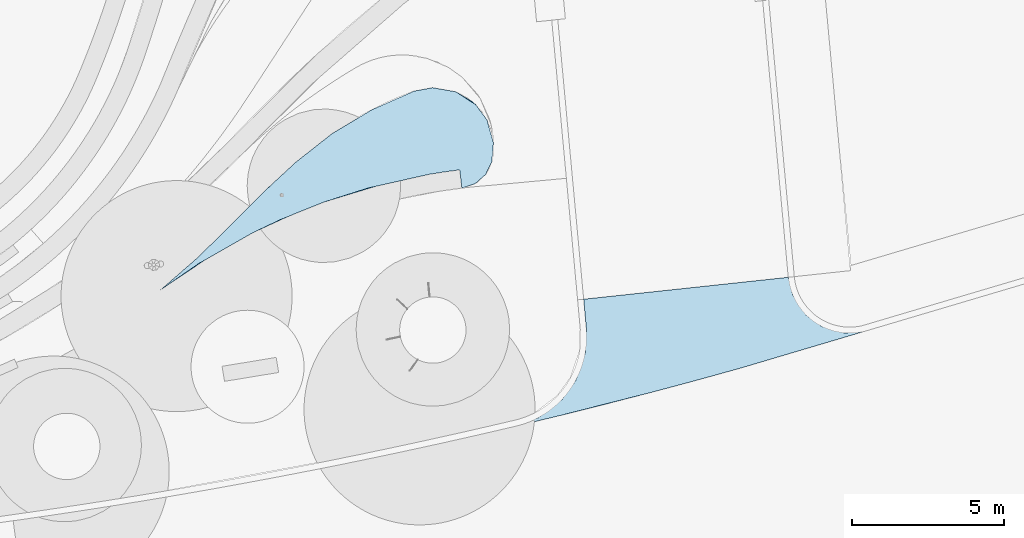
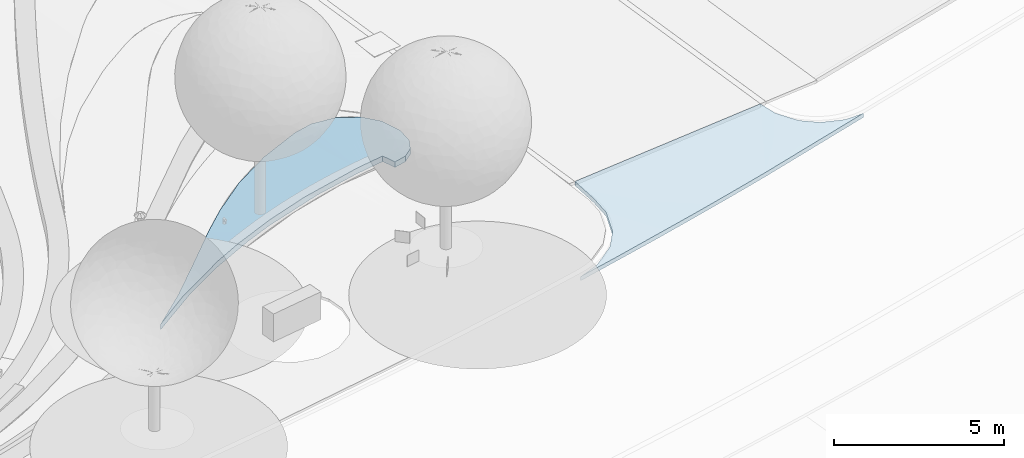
# One storey, part 44 of 75: 2 slabs.
"""IFC2X3 building model written with IfcOpenShell, lengths in metres."""

from ifc_helpers import new_model, entity, si_unit, converted_unit, derived_unit, direction, origin, place, context, subcontext, project, spatial, face_set, surface_model, material, layer, layer_set, type_object, element, save


model = new_model("IFC2X3")

# Units and contexts
model_context = context("Model", 3, precision=1e-05, world=origin(), true_north=direction((6.123031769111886e-17, 1.0)))
body_context = subcontext(model_context, "Body", "Model", "MODEL_VIEW")
ifc_project = project(units=[si_unit("LENGTHUNIT", "METRE"), si_unit("AREAUNIT", "SQUARE_METRE"), si_unit("VOLUMEUNIT", "CUBIC_METRE"), converted_unit("PLANEANGLEUNIT", "DEGREE", entity("IfcRatioMeasure", 0.017453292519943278), si_unit("PLANEANGLEUNIT", "RADIAN"), dimensions=[0, 0, 0, 0, 0, 0, 0]), si_unit("MASSUNIT", "GRAM", prefix="KILO"), derived_unit("MASSDENSITYUNIT", [(si_unit("MASSUNIT", "GRAM", prefix="KILO"), 1), (si_unit("LENGTHUNIT", "METRE"), -3)]), derived_unit("IONCONCENTRATIONUNIT", [(si_unit("MASSUNIT", "GRAM", prefix="KILO"), 1), (si_unit("LENGTHUNIT", "METRE"), -3)]), derived_unit("MOMENTOFINERTIAUNIT", [(si_unit("LENGTHUNIT", "METRE"), 4)]), si_unit("TIMEUNIT", "SECOND"), si_unit("FREQUENCYUNIT", "HERTZ"), si_unit("THERMODYNAMICTEMPERATUREUNIT", "DEGREE_CELSIUS"), derived_unit("THERMALTRANSMITTANCEUNIT", [(si_unit("MASSUNIT", "GRAM", prefix="KILO"), 1), (si_unit("THERMODYNAMICTEMPERATUREUNIT", "KELVIN"), -1), (si_unit("TIMEUNIT", "SECOND"), -3)]), derived_unit("THERMALCONDUCTANCEUNIT", [(si_unit("MASSUNIT", "GRAM", prefix="KILO"), 1), (si_unit("THERMODYNAMICTEMPERATUREUNIT", "KELVIN"), -1), (si_unit("TIMEUNIT", "SECOND"), -3), (si_unit("LENGTHUNIT", "METRE"), 1)]), derived_unit("VOLUMETRICFLOWRATEUNIT", [(si_unit("LENGTHUNIT", "METRE"), 3), (si_unit("TIMEUNIT", "SECOND"), -1)]), derived_unit("MASSFLOWRATEUNIT", [(si_unit("MASSUNIT", "GRAM", prefix="KILO"), 1), (si_unit("TIMEUNIT", "SECOND"), -1)]), derived_unit("ROTATIONALFREQUENCYUNIT", [(si_unit("TIMEUNIT", "SECOND"), -1)]), si_unit("ELECTRICCURRENTUNIT", "AMPERE"), si_unit("ELECTRICVOLTAGEUNIT", "VOLT"), si_unit("POWERUNIT", "WATT"), si_unit("FORCEUNIT", "NEWTON", prefix="KILO"), si_unit("ILLUMINANCEUNIT", "LUX"), si_unit("LUMINOUSFLUXUNIT", "LUMEN"), si_unit("LUMINOUSINTENSITYUNIT", "CANDELA"), derived_unit("USERDEFINED", [(si_unit("MASSUNIT", "GRAM", prefix="KILO"), -1), (si_unit("LENGTHUNIT", "METRE"), -2), (si_unit("TIMEUNIT", "SECOND"), 3), (si_unit("LUMINOUSFLUXUNIT", "LUMEN"), 1)]), derived_unit("USERDEFINED", [(si_unit("MASSUNIT", "GRAM", prefix="KILO"), 1), (si_unit("TIMEUNIT", "SECOND"), -3), (si_unit("LENGTHUNIT", "METRE"), 3), (si_unit("ELECTRICCURRENTUNIT", "AMPERE"), -2)]), derived_unit("SOUNDPOWERUNIT", [(si_unit("MASSUNIT", "GRAM", prefix="KILO"), 1), (si_unit("TIMEUNIT", "SECOND"), -3), (si_unit("LENGTHUNIT", "METRE"), 2)]), derived_unit("SOUNDPRESSUREUNIT", [(si_unit("MASSUNIT", "GRAM", prefix="KILO"), 1), (si_unit("LENGTHUNIT", "METRE"), -1), (si_unit("TIMEUNIT", "SECOND"), -2)]), derived_unit("LINEARVELOCITYUNIT", [(si_unit("LENGTHUNIT", "METRE"), 1), (si_unit("TIMEUNIT", "SECOND"), -1)]), si_unit("PRESSUREUNIT", "PASCAL"), derived_unit("USERDEFINED", [(si_unit("MASSUNIT", "GRAM", prefix="KILO"), 1), (si_unit("LENGTHUNIT", "METRE"), -2), (si_unit("TIMEUNIT", "SECOND"), -2)]), derived_unit("LINEARFORCEUNIT", [(si_unit("MASSUNIT", "GRAM", prefix="KILO"), 1), (si_unit("TIMEUNIT", "SECOND"), -2)]), derived_unit("PLANARFORCEUNIT", [(si_unit("MASSUNIT", "GRAM", prefix="KILO"), 1), (si_unit("LENGTHUNIT", "METRE"), -1), (si_unit("TIMEUNIT", "SECOND"), -2)]), derived_unit("SPECIFICHEATCAPACITYUNIT", [(si_unit("THERMODYNAMICTEMPERATUREUNIT", "KELVIN"), -1), (si_unit("LENGTHUNIT", "METRE"), 2), (si_unit("TIMEUNIT", "SECOND"), -2)]), derived_unit("HEATINGVALUEUNIT", [(si_unit("LENGTHUNIT", "METRE"), 2), (si_unit("TIMEUNIT", "SECOND"), -2)]), derived_unit("VAPORPERMEABILITYUNIT", [(si_unit("LENGTHUNIT", "METRE"), -1), (si_unit("TIMEUNIT", "SECOND"), 1)]), derived_unit("DYNAMICVISCOSITYUNIT", [(si_unit("MASSUNIT", "GRAM", prefix="KILO"), 1), (si_unit("TIMEUNIT", "SECOND"), -1), (si_unit("LENGTHUNIT", "METRE"), -1)]), derived_unit("THERMALEXPANSIONCOEFFICIENTUNIT", [(si_unit("THERMODYNAMICTEMPERATUREUNIT", "KELVIN"), -1)]), derived_unit("MODULUSOFELASTICITYUNIT", [(si_unit("MASSUNIT", "GRAM", prefix="KILO"), 1), (si_unit("LENGTHUNIT", "METRE"), -1), (si_unit("TIMEUNIT", "SECOND"), -2)]), derived_unit("ISOTHERMALMOISTURECAPACITYUNIT", [(si_unit("LENGTHUNIT", "METRE"), 3), (si_unit("MASSUNIT", "GRAM", prefix="KILO"), -1)]), derived_unit("MOISTUREDIFFUSIVITYUNIT", [(si_unit("TIMEUNIT", "SECOND"), -1), (si_unit("LENGTHUNIT", "METRE"), 2)])], contexts=[model_context])

# Site, building, storey
site_placement = place(None, origin())
site = spatial("IfcSite", under=ifc_project, at=site_placement, Name="Default", CompositionType="ELEMENT")
building_placement = place(site_placement, origin())
building = spatial("IfcBuilding", under=site, at=building_placement, Name="Projeto", CompositionType="ELEMENT")
storey_placement = place(building_placement, origin())
storey = spatial("IfcBuildingStorey", under=building, at=storey_placement, Name="Nível 1", CompositionType="ELEMENT", Elevation=0.0)

# Slabs
ifc_material_1 = material(Name="Piso CAJOI PASSEIO")
ifc_layer_1 = layer(ifc_material_1, 0.14999999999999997)
ifc_layer_set_1 = layer_set([ifc_layer_1], Name="Piso:Basalto Flameado 20x10cm")
slab_type_1 = type_object("IfcSlabType", Name="Piso:Basalto Flameado 20x10cm", PredefinedType="FLOOR", material=ifc_layer_set_1)
slab_1_placement = place(storey_placement, origin())
element("IfcSlab", 1, at=slab_1_placement, inside=storey, type_object=slab_type_1, material=ifc_material_1, Name="Piso:Basalto Flameado 20x10cm", ObjectType="Piso:Basalto Flameado 20x10cm", PredefinedType="FLOOR", context=body_context, shape_type="SurfaceModel", body=[
    surface_model("IfcFaceBasedSurfaceModel", [(31.998860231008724, -10.737020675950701, -0.14999999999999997), (31.998860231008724, -10.737020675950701, 0.0), (38.71441638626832, -10.017258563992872, 0.0), (38.71441638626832, -10.017258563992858, -0.14999999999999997), (32.08751155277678, -11.708002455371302, -0.20999999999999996), (32.08751155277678, -11.708002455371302, -0.06), (41.18165052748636, -11.802757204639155, -0.26999999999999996), (37.1628139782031, -12.994707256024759, -0.26999999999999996), (37.16281397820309, -12.99470725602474, -0.12), (41.18165052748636, -11.802757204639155, -0.12000000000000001), (36.42917872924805, -13.199088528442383, -0.2699999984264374), (36.42917872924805, -13.199088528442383, -0.1199999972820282), (35.694700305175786, -13.400408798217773, -0.1199999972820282), (35.694700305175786, -13.400408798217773, -0.2699999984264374), (34.959384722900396, -13.59866297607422, -0.1199999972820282), (34.959384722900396, -13.59866297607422, -0.2699999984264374), (32.74857315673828, -14.1750033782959, -0.2699999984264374), (34.2232505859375, -13.793849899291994, -0.1199999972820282), (31.27076568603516, -14.543842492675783, -0.1199999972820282), (29.78993514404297, -14.900342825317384, -0.2699999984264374), (29.78993514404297, -14.900342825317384, -0.1199999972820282), (34.2232505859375, -13.793849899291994, -0.2699999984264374), (31.287178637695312, -14.034055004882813, -0.24545454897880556), (30.90217888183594, -14.329477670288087, -0.2522727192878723), (30.90217888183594, -14.329477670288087, -0.10227272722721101), (31.287178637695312, -14.034055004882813, -0.09545454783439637), (31.741478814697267, -13.402833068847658, -0.0845454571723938), (31.899362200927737, -12.943951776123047, -0.0777272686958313), (31.899362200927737, -12.943951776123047, -0.2277272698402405), (31.741478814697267, -13.402833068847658, -0.23454545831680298), (30.51717680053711, -14.624901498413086, -0.10909090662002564), (30.153557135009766, -14.762622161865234, -0.11454545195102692), (30.153557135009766, -14.762622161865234, -0.26454546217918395), (30.51717680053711, -14.624901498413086, -0.25909090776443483), (31.514327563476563, -13.718444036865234, -0.09000000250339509), (31.514327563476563, -13.718444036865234, -0.2399999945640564), (32.05724791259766, -12.485070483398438, -0.2209090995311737), (32.05724791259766, -12.485070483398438, -0.07090908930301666), (32.07237954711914, -12.096536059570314, -0.21545454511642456), (32.06897742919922, -12.183898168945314, -0.06668100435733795), (38.79112990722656, -10.319725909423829, -0.16090909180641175), (38.810356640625, -10.395535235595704, -0.013643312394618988), (38.8678438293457, -10.622193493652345, -0.17181818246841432), (40.870361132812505, -11.82443173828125, -0.10909090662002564), (39.81065372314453, -11.63214580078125, -0.2209090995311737), (39.99775858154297, -11.685635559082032, -0.0777272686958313), (40.18486343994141, -11.73912648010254, -0.23454545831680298), (39.30502412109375, -11.26622860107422, -0.04909090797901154), (39.30502412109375, -11.26622860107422, -0.19909090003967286), (39.19572846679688, -11.10521982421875, -0.19227272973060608), (39.0864328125, -10.944211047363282, -0.03545454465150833), (38.8678438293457, -10.622193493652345, -0.021818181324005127), (39.0864328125, -10.944211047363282, -0.1854545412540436), (39.81065372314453, -11.63214580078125, -0.07090908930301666), (39.55783659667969, -11.449187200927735, -0.21000000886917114), (39.55783659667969, -11.449187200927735, -0.0599999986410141), (40.18486343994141, -11.73912648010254, -0.0845454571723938), (40.792337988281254, -11.829863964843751, -0.25635668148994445), (40.55906850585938, -11.846107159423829, -0.09818181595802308), (40.55906850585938, -11.846107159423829, -0.24818181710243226), (33.37958347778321, -12.530552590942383, -0.08027959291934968), (33.58586390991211, -12.327076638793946, -0.07132964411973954), (32.043185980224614, -11.222511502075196, -0.02999999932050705), (33.1378819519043, -12.733835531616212, -0.08950837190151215), (33.84678054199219, -12.068714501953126, -0.0599999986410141), (33.58586390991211, -12.327076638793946, -0.2213296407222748), (33.37958347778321, -12.530552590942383, -0.230279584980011), (32.043185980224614, -11.222511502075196, -0.18000000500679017), (33.1378819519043, -12.733835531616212, -0.2395083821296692), (33.84678054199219, -12.068714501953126, -0.21000000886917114), (31.639826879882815, -14.450093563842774, -0.1199999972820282), (33.116069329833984, -14.075096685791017, -0.1199999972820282), (33.48513052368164, -13.981347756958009, -0.1199999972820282), (33.8541917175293, -13.887598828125, -0.1199999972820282), (32.07237257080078, -12.096534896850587, -0.06545454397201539), (30.16014277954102, -14.811218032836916, -0.1199999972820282), (30.530350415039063, -14.722093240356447, -0.1199999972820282), (30.90055805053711, -14.632967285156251, -0.1199999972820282), (32.00888807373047, -14.356344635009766, -0.1199999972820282), (32.377949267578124, -14.262595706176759, -0.1199999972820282), (32.74700813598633, -14.16884677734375, -0.1199999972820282), (38.20457268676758, -12.421656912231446, -0.0986502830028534), (38.63665328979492, -12.35988510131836, -0.1000936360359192), (38.110227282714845, -11.832490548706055, -0.07165440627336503), (38.72812677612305, -12.461441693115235, -0.10957000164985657), (38.06123492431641, -11.569020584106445, -0.06150525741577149), (38.73172655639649, -12.529381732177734, -0.1199999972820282), (38.598178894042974, -12.549988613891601, -0.1155943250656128), (38.20886544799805, -12.211147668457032, -0.0881722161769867), (38.350880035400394, -11.853041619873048, -0.07255169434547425), (37.76854348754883, -11.832341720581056, -0.07315324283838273), (38.791139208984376, -10.319721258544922, -0.010909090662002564), (33.48591187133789, -13.984426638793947, -0.2699999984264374), (33.11724135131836, -14.079715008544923, -0.2699999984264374), (31.639082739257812, -14.447005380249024, -0.2699999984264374), (32.008913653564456, -14.356337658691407, -0.2699999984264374), (33.90559323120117, -13.875953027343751, -0.2699999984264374), (30.108592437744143, -14.822220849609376, -0.2699999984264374), (30.529594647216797, -14.719007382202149, -0.2699999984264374), (30.899423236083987, -14.628340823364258, -0.2699999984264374), (31.269254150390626, -14.537673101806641, -0.2699999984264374), (32.37874224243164, -14.265671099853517, -0.2699999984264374), (38.63665328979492, -12.35988510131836, -0.2500936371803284), (38.20457268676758, -12.421656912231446, -0.2486502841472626), (38.110227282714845, -11.832490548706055, -0.22165440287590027), (38.72812677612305, -12.461441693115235, -0.2595700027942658), (38.06123492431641, -11.569020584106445, -0.21150525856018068), (38.73172655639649, -12.529381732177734, -0.2699999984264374), (38.598178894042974, -12.549988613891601, -0.265594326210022), (40.870361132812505, -11.824421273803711, -0.25909090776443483), (38.20886544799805, -12.211147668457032, -0.23817221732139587), (38.350880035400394, -11.853041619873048, -0.22255169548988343), (37.76854348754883, -11.832341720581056, -0.22315323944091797), (35.35663721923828, -10.377139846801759, 0.0), (35.35663721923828, -10.377139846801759, -0.1500000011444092)], [face_set([[[0, 1, 2, 3]], [[4, 5, 1, 0]], [[6, 7, 8, 9]], [[10, 11, 12, 13]], [[13, 12, 14, 15]], [[7, 8, 11, 10]], [[16, 17, 18]], [[19, 18, 20]], [[17, 21, 15, 14]], [[21, 17, 16]], [[18, 19, 16]], [[22, 23, 24, 25]], [[26, 27, 28, 29]], [[30, 31, 32, 33]], [[31, 20, 19, 32]], [[30, 24, 23, 33]], [[34, 26, 29, 35]], [[36, 28, 27, 37]], [[38, 36, 39]], [[4, 38, 5]], [[37, 39, 36]], [[38, 39, 5]], [[35, 22, 25, 34]], [[40, 41, 42]], [[43, 9, 6]], [[44, 45, 46]], [[47, 48, 49, 50]], [[42, 51, 50, 52]], [[41, 40, 2]], [[53, 44, 54, 55]], [[3, 2, 40]], [[49, 52, 50]], [[56, 46, 45]], [[43, 57, 58]], [[53, 45, 44]], [[46, 56, 58, 59]], [[57, 43, 6]], [[48, 47, 55, 54]], [[59, 58, 57]], [[41, 51, 42]], [[60, 14, 61]], [[14, 12, 61]], [[1, 62, 61]], [[5, 60, 62]], [[63, 60, 5]], [[17, 14, 60]], [[17, 60, 63]], [[62, 60, 61]], [[61, 12, 64, 1]], [[65, 15, 66]], [[65, 13, 15]], [[65, 67, 0]], [[67, 66, 4]], [[4, 66, 68]], [[66, 15, 21]], [[68, 66, 21]], [[65, 66, 67]], [[69, 13, 65]], [[69, 65, 0]], [[25, 18, 70]], [[71, 72, 37]], [[5, 73, 17]], [[74, 72, 73]], [[18, 25, 24]], [[75, 76, 31, 20]], [[73, 5, 74]], [[30, 77, 24]], [[30, 76, 77]], [[34, 70, 78, 79]], [[27, 80, 26]], [[72, 37, 74]], [[37, 27, 71]], [[76, 30, 31]], [[27, 80, 71]], [[34, 79, 26]], [[34, 70, 25]], [[79, 80, 26]], [[18, 24, 77]], [[81, 8, 82]], [[83, 50, 51]], [[55, 81, 53]], [[84, 56, 82]], [[85, 83, 51]], [[8, 86, 87]], [[43, 58, 84]], [[88, 8, 81]], [[43, 84, 87]], [[82, 53, 81]], [[8, 84, 82]], [[87, 84, 8]], [[9, 43, 86]], [[81, 55, 88]], [[47, 50, 89]], [[8, 88, 89]], [[2, 90, 85]], [[50, 83, 89]], [[85, 91, 2]], [[8, 83, 85]], [[8, 85, 90]], [[89, 83, 8]], [[47, 89, 88]], [[56, 84, 58]], [[56, 53, 82]], [[55, 47, 88]], [[43, 87, 86]], [[85, 51, 91]], [[36, 38, 92]], [[36, 93, 28]], [[94, 35, 95]], [[38, 4, 96]], [[16, 28, 93]], [[97, 19, 32]], [[98, 32, 33]], [[16, 29, 28]], [[23, 99, 33]], [[99, 98, 33]], [[22, 100, 23]], [[38, 96, 92]], [[97, 32, 98]], [[29, 101, 35]], [[21, 96, 4]], [[36, 92, 93]], [[95, 35, 101]], [[94, 22, 35]], [[29, 16, 101]], [[94, 100, 22]], [[99, 23, 100]], [[102, 7, 103]], [[42, 52, 104]], [[44, 103, 54]], [[102, 46, 105]], [[42, 104, 106]], [[7, 107, 108]], [[109, 59, 105]], [[103, 7, 110]], [[108, 105, 109]], [[103, 44, 102]], [[102, 105, 7]], [[7, 105, 108]], [[6, 109, 107]], [[110, 54, 103]], [[111, 52, 48]], [[111, 110, 7]], [[106, 112, 3]], [[111, 104, 52]], [[3, 40, 106]], [[106, 104, 7]], [[112, 106, 7]], [[7, 104, 111]], [[110, 111, 48]], [[59, 105, 46]], [[102, 44, 46]], [[110, 48, 54]], [[109, 108, 107]], [[40, 42, 106]], [[1, 12, 11]], [[8, 2, 113]], [[8, 113, 11]], [[11, 113, 1]], [[10, 13, 0]], [[114, 3, 7]], [[10, 114, 7]], [[0, 114, 10]]])]),
])
ifc_material_2 = material(Name="floração tipo 1")
ifc_layer_2 = layer(ifc_material_2, 0.04)
ifc_layer_3 = layer(ifc_material_2, 0.16)
ifc_layer_set_2 = layer_set([ifc_layer_2, ifc_layer_3], Name="Piso:Floração tipo 1")
slab_type_2 = type_object("IfcSlabType", Name="Piso:Floração tipo 1", PredefinedType="FLOOR", material=ifc_layer_set_2)
slab_2_placement = place(storey_placement, origin())
element("IfcSlab", 2, at=slab_2_placement, inside=storey, type_object=slab_type_2, material=ifc_material_2, Name="Piso:Floração tipo 1", ObjectType="Piso:Floração tipo 1", PredefinedType="FLOOR", context=body_context, shape_type="SurfaceModel", body=[
    surface_model("IfcFaceBasedSurfaceModel", [(26.9207009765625, -6.638477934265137, -0.25999999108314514), (26.9207009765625, -6.638477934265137, -0.4600000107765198), (27.423707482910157, -6.557531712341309, -0.45000000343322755), (27.423707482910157, -6.557531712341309, -0.25000000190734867), (25.425955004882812, -6.955428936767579, -0.4899999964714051), (25.92706395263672, -6.8620270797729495, -0.2800000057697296), (24.93342692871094, -7.085576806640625, -0.3000000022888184), (24.451549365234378, -7.251927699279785, -0.5100000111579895), (23.47714372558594, -7.548425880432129, -0.3299999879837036), (23.47714372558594, -7.548425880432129, -0.5299999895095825), (27.928613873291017, -6.489025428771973, -0.2399999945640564), (27.928613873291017, -6.489025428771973, -0.43999999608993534), (22.059076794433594, -8.117820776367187, -0.36000001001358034), (21.138821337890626, -8.555075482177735, -0.5799999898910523), (22.527029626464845, -7.916366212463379, -0.550000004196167), (20.253784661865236, -9.05906157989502, -0.4000000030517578), (19.36874682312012, -9.563047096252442, -0.4200000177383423), (19.801788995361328, -9.294740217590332, -0.6099999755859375), (18.111056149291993, -10.431056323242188, -0.6500000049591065), (18.111056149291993, -10.431056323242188, -0.45000000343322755), (18.9564219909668, -9.862897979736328, -0.629999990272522), (21.138821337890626, -8.555075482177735, -0.37999998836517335), (20.469704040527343, -8.250400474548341, -0.45000000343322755), (21.280938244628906, -7.4292203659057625, -0.6500000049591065), (20.469704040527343, -8.250400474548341, -0.6500000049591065), (21.69577803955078, -7.027925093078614, -0.45000000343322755), (22.54342164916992, -6.244382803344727, -0.45000000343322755), (22.54342164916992, -6.244382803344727, -0.6500000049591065), (23.73617210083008, -5.30360534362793, -0.45000000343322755), (23.73617210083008, -5.30360534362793, -0.6500000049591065), (25.037936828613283, -4.520582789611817, -0.45000000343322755), (25.037936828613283, -4.520582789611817, -0.6500000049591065), (26.427972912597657, -3.9077919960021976, -0.45000000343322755), (26.427972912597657, -3.9077919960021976, -0.6500000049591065), (19.323320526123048, -9.376357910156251, -0.45000000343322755), (19.323320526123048, -9.376357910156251, -0.6500000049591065), (21.082741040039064, -7.639162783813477, -0.45000000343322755), (21.72843651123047, -8.274936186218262, -0.3671859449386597), (22.768114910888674, -7.8331340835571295, -0.3450000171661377), (22.119598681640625, -6.636154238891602, -0.45000000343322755), (21.83292780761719, -8.235728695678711, -0.5649999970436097), (20.989465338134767, -7.724267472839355, -0.6500000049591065), (22.868404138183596, -7.7841719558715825, -0.5428140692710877), (21.91218110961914, -6.836801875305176, -0.6500000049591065), (19.82313187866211, -8.885452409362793, -0.45000000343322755), (20.696308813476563, -8.807080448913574, -0.3899999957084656), (20.146416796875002, -8.567926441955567, -0.45000000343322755), (19.811272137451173, -9.311064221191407, -0.4100000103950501), (18.739904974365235, -9.99705606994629, -0.4350000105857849), (18.717188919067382, -9.90370711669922, -0.45000000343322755), (20.470308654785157, -8.924916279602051, -0.5949999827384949), (19.89651112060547, -8.813378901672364, -0.6500000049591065), (18.717188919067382, -9.90370711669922, -0.6500000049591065), (18.53373965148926, -10.146978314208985, -0.6400000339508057), (19.37910665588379, -9.578822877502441, -0.6200000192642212), (19.609916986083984, -9.094868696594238, -0.6500000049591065), (27.04087038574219, -3.793260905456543, -0.4138518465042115), (27.806379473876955, -3.929263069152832, -0.36866666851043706), (27.806379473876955, -3.929263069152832, -0.568666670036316), (27.04087038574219, -3.793260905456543, -0.6138518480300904), (28.342318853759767, -4.247899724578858, -0.5325185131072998), (28.458239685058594, -4.353049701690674, -0.32348149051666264), (28.82747063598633, -4.855471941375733, -0.2873333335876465), (29.037253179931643, -5.604132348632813, -0.2421481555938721), (29.037253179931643, -5.604132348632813, -0.442148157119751), (28.82747063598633, -4.855471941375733, -0.4873333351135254), (28.982851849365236, -6.225259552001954, -0.20599999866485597), (28.982851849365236, -6.225259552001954, -0.4060000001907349), (28.78351285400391, -6.640034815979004, -0.17447032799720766), (28.78351285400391, -6.640034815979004, -0.3744703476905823), (28.438206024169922, -6.944141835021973, -0.34294065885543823), (28.438206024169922, -6.944141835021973, -0.1429406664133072), (28.001565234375, -7.08946668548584, -0.11141100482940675), (28.001565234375, -7.08946668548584, -0.3114110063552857), (24.56935845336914, -7.201295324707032, -0.3075000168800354), (23.841216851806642, -7.432723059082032, -0.32250000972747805), (24.387053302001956, -4.912093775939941, -0.45000000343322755), (25.430247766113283, -6.973808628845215, -0.28999999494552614), (23.377473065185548, -5.586527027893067, -0.45000000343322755), (24.20528765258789, -7.317009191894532, -0.314999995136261), (25.73295487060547, -4.214187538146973, -0.45000000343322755), (26.45870126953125, -6.742428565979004, -0.26929916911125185), (23.01877635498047, -5.869448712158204, -0.45000000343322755), (28.15708132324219, -7.037698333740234, -0.1226410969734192), (28.610844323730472, -6.792071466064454, -0.15870550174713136), (28.883171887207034, -6.432639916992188, -0.19023517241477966), (23.139796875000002, -5.773994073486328, -0.6500000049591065), (24.938754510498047, -7.103680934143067, -0.5000000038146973), (24.387053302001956, -4.912093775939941, -0.6500000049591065), (23.930204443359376, -7.410574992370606, -0.5207008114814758), (26.173327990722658, -6.796958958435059, -0.47500000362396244), (25.799641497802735, -6.876194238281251, -0.482499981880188), (25.73295487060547, -4.214187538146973, -0.6500000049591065), (26.457371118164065, -6.7367318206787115, -0.4692991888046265), (28.15708132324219, -7.037698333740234, -0.3226410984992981), (28.610844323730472, -6.792071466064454, -0.35870550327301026), (28.883171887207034, -6.432639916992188, -0.39023515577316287), (28.581006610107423, -6.189612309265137, -0.22779247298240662), (28.46620431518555, -6.109535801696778, -0.23739263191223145), (29.010043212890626, -5.914696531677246, -0.22407407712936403), (27.423621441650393, -3.8612803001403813, -0.39125925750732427), (27.423260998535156, -5.174940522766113, -0.3195857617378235), (27.17335067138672, -5.2694632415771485, -0.32580972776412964), (26.734421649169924, -3.850535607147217, -0.4319259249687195), (26.80753114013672, -5.039646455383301, -0.3591337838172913), (28.193720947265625, -5.5661910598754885, -0.2735757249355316), (27.48682223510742, -6.548972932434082, -0.24875000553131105), (27.549934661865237, -6.540408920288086, -0.24749999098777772), (27.970590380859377, -5.580724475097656, -0.2798261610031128), (27.866254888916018, -5.336728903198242, -0.2949842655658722), (27.235081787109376, -6.587893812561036, -0.2537499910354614), (27.297957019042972, -6.577774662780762, -0.25249999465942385), (27.605396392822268, -5.242374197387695, -0.30887002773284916), (27.80238669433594, -6.506153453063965, -0.24250000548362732), (27.865501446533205, -6.497589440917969, -0.241249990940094), (28.13230144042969, -4.141169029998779, -0.34607407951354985), (27.810490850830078, -5.051743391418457, -0.31102752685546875), (26.985652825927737, -5.1606123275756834, -0.3416119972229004), (27.172206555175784, -6.598012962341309, -0.25500000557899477), (27.046453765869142, -6.618250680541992, -0.25749999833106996), (27.109328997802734, -6.608132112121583, -0.25625000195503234), (28.336863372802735, -5.948560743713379, -0.2506029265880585), (27.739274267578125, -6.514717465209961, -0.24375000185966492), (27.360832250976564, -6.567656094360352, -0.25124999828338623), (27.613049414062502, -6.53184490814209, -0.24624999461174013), (28.28564789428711, -5.759174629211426, -0.26149617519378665), (28.642844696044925, -4.604268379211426, -0.30540741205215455), (28.932345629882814, -5.229806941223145, -0.2647407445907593), (27.676161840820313, -6.523280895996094, -0.24499999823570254), (26.98357853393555, -6.628369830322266, -0.2587499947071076), (26.67482063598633, -5.275819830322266, -0.3548135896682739), (28.454698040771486, -6.357401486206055, -0.22303337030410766), (28.341811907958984, -5.988660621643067, -0.44843676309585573), (28.932345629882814, -5.229806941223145, -0.4647407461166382), (27.48682223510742, -6.548972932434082, -0.44875000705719), (27.938741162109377, -5.796097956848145, -0.4705706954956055), (27.549934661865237, -6.540408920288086, -0.44750001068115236), (28.444500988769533, -6.095660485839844, -0.43902610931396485), (28.298172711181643, -5.7509204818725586, -0.4614853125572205), (27.739274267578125, -6.514717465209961, -0.4437499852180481), (27.80238669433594, -6.506153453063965, -0.4424999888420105), (27.235081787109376, -6.587893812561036, -0.45374999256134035), (27.42479578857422, -5.197612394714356, -0.5183318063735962), (27.64392427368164, -5.195883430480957, -0.5097986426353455), (27.99841426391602, -5.424817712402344, -0.48642804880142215), (26.67482063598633, -5.275819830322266, -0.5548135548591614), (26.98357853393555, -6.628369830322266, -0.4587500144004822), (27.77206296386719, -5.457945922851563, -0.4921664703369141), (28.184379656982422, -5.622891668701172, -0.47117930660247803), (27.21592946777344, -5.2495557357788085, -0.5248453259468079), (27.423621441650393, -3.8612803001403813, -0.5912592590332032), (27.865501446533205, -6.497589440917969, -0.4412499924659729), (27.613049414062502, -6.53184490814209, -0.4462500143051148), (27.676161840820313, -6.523280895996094, -0.4450000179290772), (28.584883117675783, -4.55169368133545, -0.5099259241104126), (28.0743421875, -4.088594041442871, -0.5505925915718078), (27.360832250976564, -6.567656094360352, -0.45124999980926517), (27.297957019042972, -6.577774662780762, -0.45249999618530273), (27.172206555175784, -6.598012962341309, -0.454999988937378), (26.954047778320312, -5.126695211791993, -0.5452992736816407), (27.109328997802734, -6.608132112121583, -0.45624998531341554), (26.77644931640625, -4.918267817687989, -0.5679755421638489), (26.734421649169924, -3.850535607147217, -0.631925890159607), (28.454698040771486, -6.357401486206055, -0.42303337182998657), (28.528451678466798, -6.198133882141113, -0.4296405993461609), (29.010043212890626, -5.914696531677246, -0.42407407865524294), (27.046453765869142, -6.618250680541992, -0.4575000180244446)], [face_set([[[0, 1, 2, 3]], [[4, 1, 5]], [[5, 6, 4]], [[7, 8, 9]], [[2, 3, 10, 11]], [[7, 4, 6]], [[5, 1, 0]], [[8, 7, 6]], [[12, 13, 14]], [[15, 16, 17]], [[17, 13, 15]], [[18, 19, 20]], [[16, 17, 20]], [[12, 14, 8]], [[13, 12, 21]], [[20, 19, 16]], [[21, 15, 13]], [[9, 8, 14]], [[22, 23, 24]], [[23, 22, 25]], [[25, 26, 27]], [[25, 27, 23]], [[27, 26, 28, 29]], [[29, 28, 30, 31]], [[31, 30, 32, 33]], [[18, 19, 34, 35]], [[22, 24, 35, 34]], [[36, 12, 25]], [[12, 36, 37]], [[36, 22, 37]], [[25, 12, 38]], [[39, 25, 38]], [[8, 26, 39]], [[22, 21, 37]], [[8, 39, 38]], [[14, 40, 23]], [[24, 41, 13]], [[40, 13, 41]], [[42, 14, 43]], [[23, 43, 14]], [[23, 40, 41]], [[43, 27, 42]], [[27, 9, 42]], [[44, 45, 46]], [[34, 16, 47]], [[47, 15, 44]], [[44, 34, 47]], [[48, 16, 49]], [[16, 34, 49]], [[21, 46, 45]], [[19, 48, 49]], [[21, 22, 46]], [[45, 44, 15]], [[13, 50, 24]], [[51, 24, 50]], [[52, 53, 18]], [[35, 54, 52]], [[54, 35, 17]], [[20, 52, 54]], [[35, 55, 17]], [[17, 55, 50]], [[55, 51, 50]], [[52, 20, 53]], [[56, 57, 58, 59]], [[32, 56, 59, 33]], [[60, 58, 57]], [[57, 61, 60]], [[62, 63, 64, 65]], [[63, 66, 67, 64]], [[61, 65, 60]], [[61, 62, 65]], [[66, 68, 69, 67]], [[70, 69, 68, 71]], [[71, 72, 73, 70]], [[73, 72, 10, 11]], [[74, 6, 28]], [[26, 8, 75]], [[76, 77, 30]], [[74, 78, 79]], [[5, 80, 30]], [[74, 28, 78]], [[80, 5, 81]], [[81, 32, 80]], [[81, 0, 32]], [[77, 76, 6]], [[77, 5, 30]], [[78, 82, 79]], [[28, 6, 76]], [[26, 75, 82]], [[79, 82, 75]], [[10, 72, 83]], [[84, 68, 10]], [[10, 66, 85]], [[71, 10, 83]], [[10, 71, 84]], [[85, 68, 10]], [[86, 29, 7]], [[87, 88, 4]], [[89, 27, 86]], [[31, 90, 91]], [[91, 4, 31]], [[88, 87, 29]], [[89, 86, 7]], [[92, 33, 93]], [[4, 88, 31]], [[29, 87, 7]], [[93, 90, 92]], [[89, 9, 27]], [[33, 1, 93]], [[92, 90, 31]], [[11, 73, 94]], [[11, 69, 95, 70]], [[11, 67, 96]], [[70, 11, 94]], [[96, 69, 11]], [[97, 98, 99]], [[100, 101, 102]], [[99, 66, 97]], [[101, 100, 57]], [[103, 104, 32]], [[105, 106, 107]], [[3, 108, 109]], [[110, 111, 112]], [[98, 113, 114]], [[101, 110, 112]], [[109, 115, 116]], [[112, 57, 101]], [[56, 100, 102]], [[56, 102, 117]], [[101, 118, 110]], [[102, 119, 120]], [[118, 102, 101]], [[98, 121, 122]], [[111, 123, 116]], [[3, 109, 123]], [[106, 105, 108]], [[57, 112, 116]], [[109, 116, 123]], [[61, 115, 109]], [[105, 124, 125]], [[109, 108, 61]], [[108, 105, 126]], [[126, 105, 62]], [[126, 61, 108]], [[121, 127, 125]], [[121, 125, 128]], [[62, 105, 125]], [[127, 62, 125]], [[121, 128, 122]], [[63, 127, 121]], [[104, 117, 129]], [[129, 130, 0]], [[103, 56, 117]], [[104, 130, 32]], [[117, 104, 103]], [[119, 117, 129]], [[98, 122, 113]], [[99, 98, 63]], [[121, 98, 63]], [[131, 114, 97]], [[117, 102, 119]], [[10, 131, 114]], [[120, 118, 102]], [[57, 116, 115]], [[116, 112, 111]], [[108, 3, 106]], [[124, 105, 107]], [[124, 128, 125]], [[130, 104, 129]], [[98, 97, 114]], [[131, 97, 66]], [[64, 132, 133]], [[134, 135, 136]], [[132, 64, 137]], [[133, 132, 138]], [[139, 132, 140]], [[141, 142, 143]], [[134, 144, 135]], [[134, 2, 144]], [[145, 146, 1]], [[137, 140, 132]], [[2, 147, 144]], [[148, 65, 138]], [[149, 150, 142]], [[144, 147, 60]], [[151, 140, 137]], [[138, 152, 148]], [[153, 138, 132]], [[133, 138, 65]], [[136, 135, 148]], [[154, 65, 148]], [[144, 154, 135]], [[144, 60, 154]], [[155, 147, 143]], [[58, 143, 142]], [[143, 58, 155]], [[147, 156, 143]], [[155, 60, 147]], [[141, 143, 157]], [[141, 158, 142]], [[142, 150, 58]], [[149, 159, 59]], [[142, 158, 149]], [[149, 59, 150]], [[149, 160, 159]], [[159, 161, 162]], [[163, 151, 164]], [[165, 67, 164]], [[164, 137, 165]], [[137, 64, 165]], [[139, 153, 132]], [[151, 163, 11]], [[149, 158, 160]], [[136, 148, 152]], [[138, 153, 152]], [[148, 135, 154]], [[157, 143, 156]], [[147, 2, 156]], [[159, 162, 59]], [[161, 159, 146]], [[161, 145, 33]], [[160, 166, 159]], [[137, 164, 151]], [[146, 159, 166]], [[163, 164, 67]], [[162, 161, 33]], [[145, 161, 146]]])]),
])

save(model, "model.ifc")
